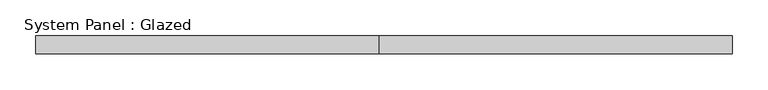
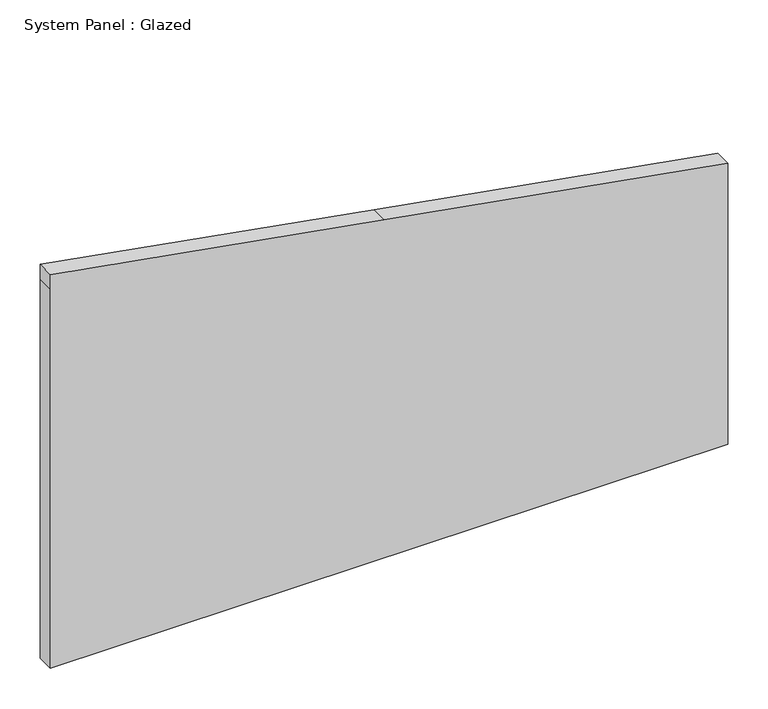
"""IFC4 building model written with IfcOpenShell, lengths in millimetres: plate geometry, System Panel : Glazed."""

from ifc_helpers import new_model, si_unit, frame, origin, place, context, project, spatial, polyline, outline, extrude, source, transform, mapped, element, save


def system_panel_glazed_dd971752(model_context):
    return source(origin(), model_context, "Body", "SweptSolid", [
        extrude(outline(polyline([(0.0, -488.4208333), (0.0, 488.4208333), (427.9655441, 488.4208333), (515.3147077, -6.9608899), (600.2090858, -488.4208333), (577.85, -488.4208333), (0.0, -488.4208333)])), frame((0.0, -44.45, 0.0), z_axis=(0.0, 1.0, 0.0), x_axis=(0.0, 0.0, 1.0)), (0.0, 0.0, 1.0), 25.4),
    ])


if __name__ == "__main__":
    model = new_model("IFC4")
    model_context = context("Model", 3, world=origin())
    ifc_project = project(units=[si_unit("LENGTHUNIT", "METRE", prefix="MILLI")], contexts=[model_context])
    site = spatial("IfcSite", under=ifc_project)
    building = spatial("IfcBuilding", under=site)
    placement = place(None, origin())
    system_panel_glazed_shape = system_panel_glazed_dd971752(model_context)
    element("IfcPlate", 1, ObjectType="System Panel : Glazed", at=placement, inside=building, context=model_context, shape_type="MappedRepresentation", body=[
        mapped(system_panel_glazed_shape, transform((0.0, 0.0, 0.0), x_axis=(1.0, 0.0, 0.0), y_axis=(0.0, 1.0, 0.0), z_axis=(0.0, 0.0, 1.0))),
    ])
    save(model, "model.ifc")
